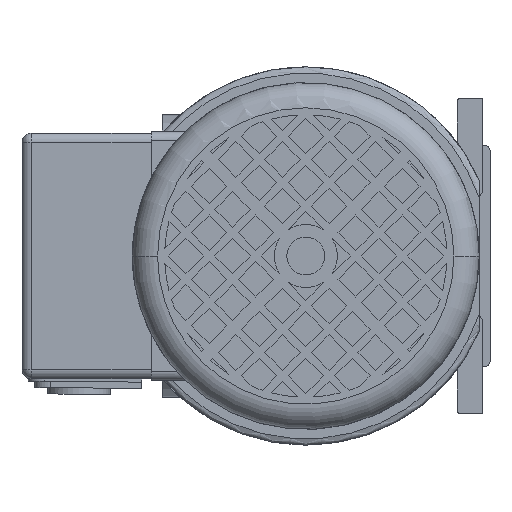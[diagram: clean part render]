
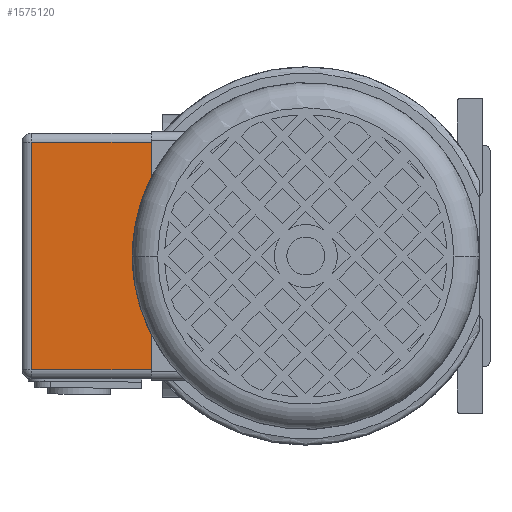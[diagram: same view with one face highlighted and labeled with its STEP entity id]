
A CAD part, left-side view. The second image highlights one B-rep face of the part: STEP entity #1575120.
In plain terms, the highlighted planar face has unit normal (-1, 0, 0) as drawn and (0, 0, -1) by its records, which use the part's own axes.
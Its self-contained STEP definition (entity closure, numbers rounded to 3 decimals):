
#1532220=CARTESIAN_POINT('',(87.,36.,-82.));
#1532230=VERTEX_POINT('',#1532220);
#1553170=CARTESIAN_POINT('',(49.,-36.,-82.));
#1553180=VERTEX_POINT('',#1553170);
#1553210=CARTESIAN_POINT('',(49.,0.,-82.));
#1553220=DIRECTION('',(0.,1.,0.));
#1553230=VECTOR('',#1553220,1.);
#1553240=LINE('',#1553210,#1553230);
#1553250=CARTESIAN_POINT('',(49.,36.,-82.));
#1553260=VERTEX_POINT('',#1553250);
#1553270=EDGE_CURVE('',#1553180,#1553260,#1553240,.T.);
#1574840=CARTESIAN_POINT('',(49.,0.,-82.));
#1574850=DIRECTION('',(0.,0.,-1.));
#1574860=DIRECTION('',(-1.,0.,0.));
#1574870=AXIS2_PLACEMENT_3D('',#1574840,#1574850,#1574860);
#1574880=PLANE('',#1574870);
#1574890=CARTESIAN_POINT('',(87.,0.,-82.));
#1574900=DIRECTION('',(0.,-1.,0.));
#1574910=VECTOR('',#1574900,1.);
#1574920=LINE('',#1574890,#1574910);
#1574930=CARTESIAN_POINT('',(87.,-36.,-82.));
#1574940=VERTEX_POINT('',#1574930);
#1574950=EDGE_CURVE('',#1532230,#1574940,#1574920,.T.);
#1574960=ORIENTED_EDGE('',*,*,#1574950,.T.);
#1574970=CARTESIAN_POINT('',(52.,36.,-82.));
#1574980=DIRECTION('',(1.,0.,0.));
#1574990=VECTOR('',#1574980,1.);
#1575000=LINE('',#1574970,#1574990);
#1575010=EDGE_CURVE('',#1553260,#1532230,#1575000,.T.);
#1575020=ORIENTED_EDGE('',*,*,#1575010,.T.);
#1575030=ORIENTED_EDGE('',*,*,#1553270,.T.);
#1575040=CARTESIAN_POINT('',(52.,-36.,-82.));
#1575050=DIRECTION('',(1.,0.,0.));
#1575060=VECTOR('',#1575050,1.);
#1575070=LINE('',#1575040,#1575060);
#1575080=EDGE_CURVE('',#1553180,#1574940,#1575070,.T.);
#1575090=ORIENTED_EDGE('',*,*,#1575080,.F.);
#1575100=EDGE_LOOP('',(#1575090,#1575030,#1575020,#1574960));
#1575110=FACE_OUTER_BOUND('',#1575100,.T.);
#1575120=ADVANCED_FACE('',(#1575110),#1574880,.T.);
